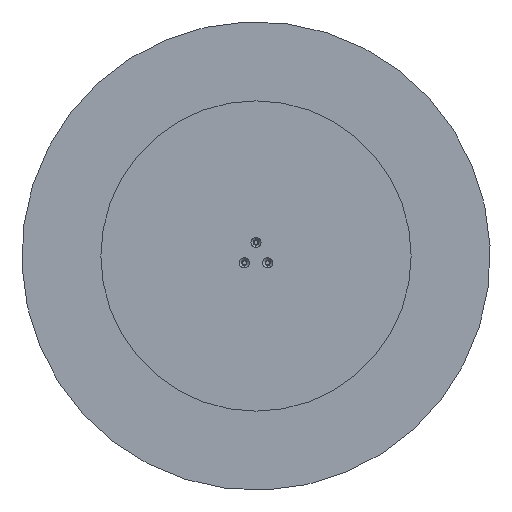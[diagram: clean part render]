
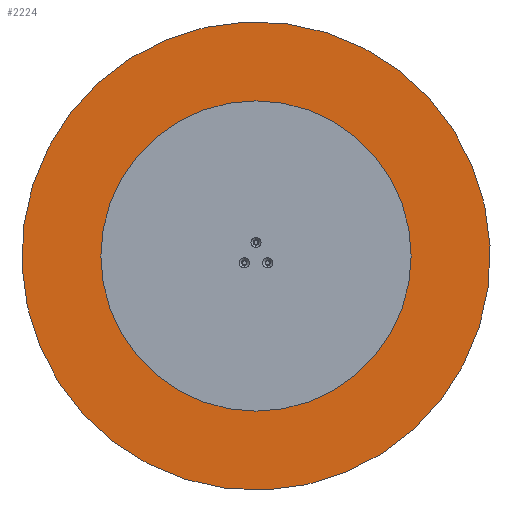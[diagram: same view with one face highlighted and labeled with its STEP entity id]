
A CAD part, front view. The second image highlights one B-rep face of the part: STEP entity #2224.
In plain terms, the highlighted planar face has unit normal (0, -1, 0).
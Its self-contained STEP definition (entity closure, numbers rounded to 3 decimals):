
#254 = FACE_OUTER_BOUND ( 'NONE', #1890, .T. ) ;
#304 = CARTESIAN_POINT ( 'NONE',  ( 0., 0., 0. ) ) ;
#370 = DIRECTION ( 'NONE',  ( 0., 0., -1. ) ) ;
#491 = AXIS2_PLACEMENT_3D ( 'NONE', #304, #605, #567 ) ;
#567 = DIRECTION ( 'NONE',  ( 0., 0., -1. ) ) ;
#605 = DIRECTION ( 'NONE',  ( 0., -1., 0. ) ) ;
#1108 = AXIS2_PLACEMENT_3D ( 'NONE', #3080, #3674, #370 ) ;
#1141 = DIRECTION ( 'NONE',  ( 0., 0., -1. ) ) ;
#1194 = CARTESIAN_POINT ( 'NONE',  ( 0., 0., -400. ) ) ;
#1729 = EDGE_CURVE ( 'NONE', #1741, #2689, #3315, .T. ) ;
#1741 = VERTEX_POINT ( 'NONE', #3635 ) ;
#1783 = DIRECTION ( 'NONE',  ( 0., -1., 0. ) ) ;
#1890 = EDGE_LOOP ( 'NONE', ( #3092, #3560 ) ) ;
#2190 = AXIS2_PLACEMENT_3D ( 'NONE', #3457, #1783, #1141 ) ;
#2224 = ADVANCED_FACE ( 'NONE', ( #254 ), #2262, .T. ) ;
#2262 = PLANE ( 'NONE',  #2190 ) ;
#2689 = VERTEX_POINT ( 'NONE', #1194 ) ;
#2796 = CIRCLE ( 'NONE', #1108, 400. ) ;
#3080 = CARTESIAN_POINT ( 'NONE',  ( 0., 0., 0. ) ) ;
#3092 = ORIENTED_EDGE ( 'NONE', *, *, #3886, .T. ) ;
#3315 = CIRCLE ( 'NONE', #491, 400. ) ;
#3457 = CARTESIAN_POINT ( 'NONE',  ( 0., 0., 0. ) ) ;
#3560 = ORIENTED_EDGE ( 'NONE', *, *, #1729, .T. ) ;
#3635 = CARTESIAN_POINT ( 'NONE',  ( 0., 0., 400. ) ) ;
#3674 = DIRECTION ( 'NONE',  ( 0., -1., 0. ) ) ;
#3886 = EDGE_CURVE ( 'NONE', #2689, #1741, #2796, .T. ) ;
